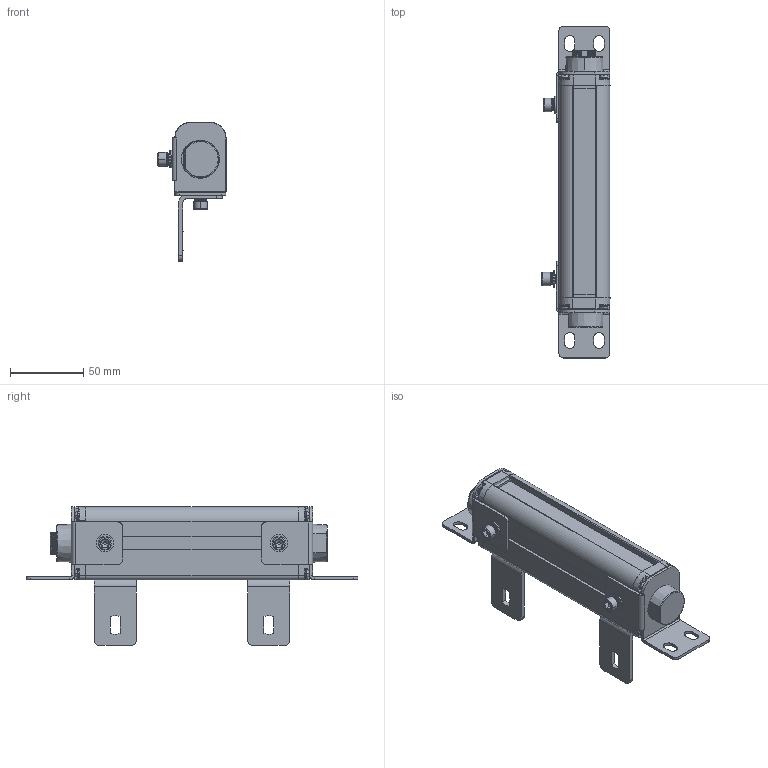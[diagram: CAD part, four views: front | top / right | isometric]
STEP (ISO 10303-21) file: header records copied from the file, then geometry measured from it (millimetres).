
FILE_DESCRIPTION((''),'2;1');
FILE_NAME('ESN--000_ASM','2021-08-10T16:37:24',('18720616900'),(''),'CREO PARAMETRIC BY PTC INC, 2019010','CREO PARAMETRIC BY PTC INC, 2019010','');
FILE_SCHEMA(('CONFIG_CONTROL_DESIGN'));
Products named in the file (22): 00; 000; _0002; _0003; _0004; 5000; 5--0001; ESN_50001_ASM; ST-3-120001; L10001; M6-8--0001; M6-1--00; M6-1-00; M6-80001_ASM; L1--0001_ASM; H1--000; H1--0003_ASM; H1--0001_ASM; ESN--000_ASM
Assembly tree (35 placements, depth 4):
  ESN--000_ASM
    00
    000
    _0002
    _0003
    _0004
    000
    ESN_50001_ASM
      5000
      5--0001  x5
    ST-3-120001  x8
    L1--0001_ASM  x2
      L10001
      M6-80001_ASM
        M6-8--0001
        M6-1--00
        M6-1-00
        00
    H1--0003_ASM
      H1--000
      M6-80001_ASM
        M6-8--0001
        M6-1--00
        M6-1-00
        00
    H1--0001_ASM
      H1--000
      M6-80001_ASM
        M6-8--0001
        M6-1--00
        M6-1-00
        00
Bounding box: 46.5 x 227 x 94.95 mm (x, y, z)
Volume: 274051.5 mm3; surface area: 93999.1 mm2
Topology: 40 solids, 40 shells, 1785 faces, 4708 edges, 3012 vertices
Faces by surface type: plane 583, cylinder 416, bspline 362, cone 291, torus 107, sphere 26
Entity records: 48222 total; most frequent: CARTESIAN_POINT 24957, ORIENTED_EDGE 5136, DIRECTION 4189, EDGE_CURVE 2568, VERTEX_POINT 1669, AXIS2_PLACEMENT_3D 1488, VECTOR 1213, LINE 1213
